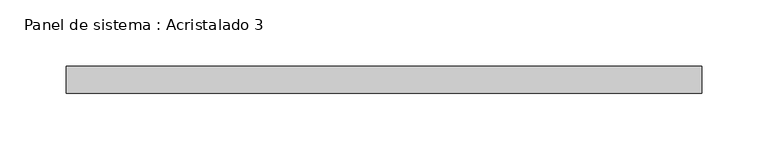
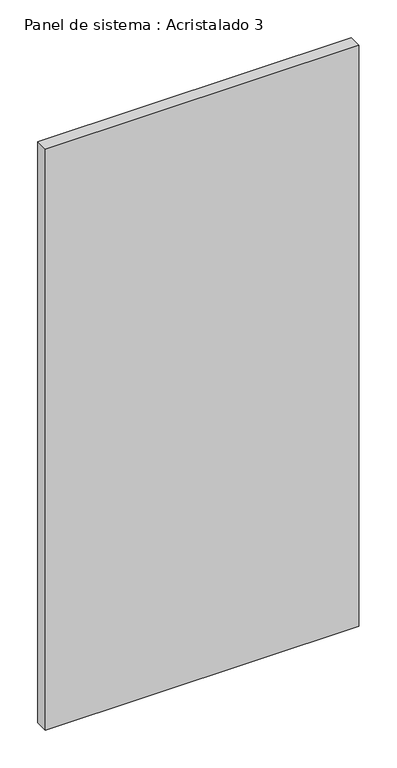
"""IFC4 building model written with IfcOpenShell, lengths in millimetres: plate geometry, Panel de sistema : Acristalado 3."""

from ifc_helpers import new_model, si_unit, origin, origin_with_axes, place, context, project, spatial, polyline, outline, extrude, source, transform, mapped, element, save


def panel_de_sistema_acristalado_3_17f1fe4e(model_context):
    return source(origin(), model_context, "Body", "SweptSolid", [
        extrude(outline(polyline([(238.9856211, 90.0), (-238.9856211, 90.0), (-238.9856211, 110.0), (238.9856211, 110.0), (238.9856211, 90.0)])), origin_with_axes(), (0.0, 0.0, 1.0), 936.3914841),
    ])


if __name__ == "__main__":
    model = new_model("IFC4")
    model_context = context("Model", 3, world=origin())
    ifc_project = project(units=[si_unit("LENGTHUNIT", "METRE", prefix="MILLI")], contexts=[model_context])
    site = spatial("IfcSite", under=ifc_project)
    building = spatial("IfcBuilding", under=site)
    placement = place(None, origin())
    panel_de_sistema_acristalado_3_shape = panel_de_sistema_acristalado_3_17f1fe4e(model_context)
    element("IfcPlate", 1, ObjectType="Panel de sistema : Acristalado 3", at=placement, inside=building, context=model_context, shape_type="MappedRepresentation", body=[
        mapped(panel_de_sistema_acristalado_3_shape, transform((0.0, 0.0, 0.0), x_axis=(1.0, 0.0, 0.0), y_axis=(0.0, 1.0, 0.0), z_axis=(0.0, 0.0, 1.0))),
    ])
    save(model, "model.ifc")
